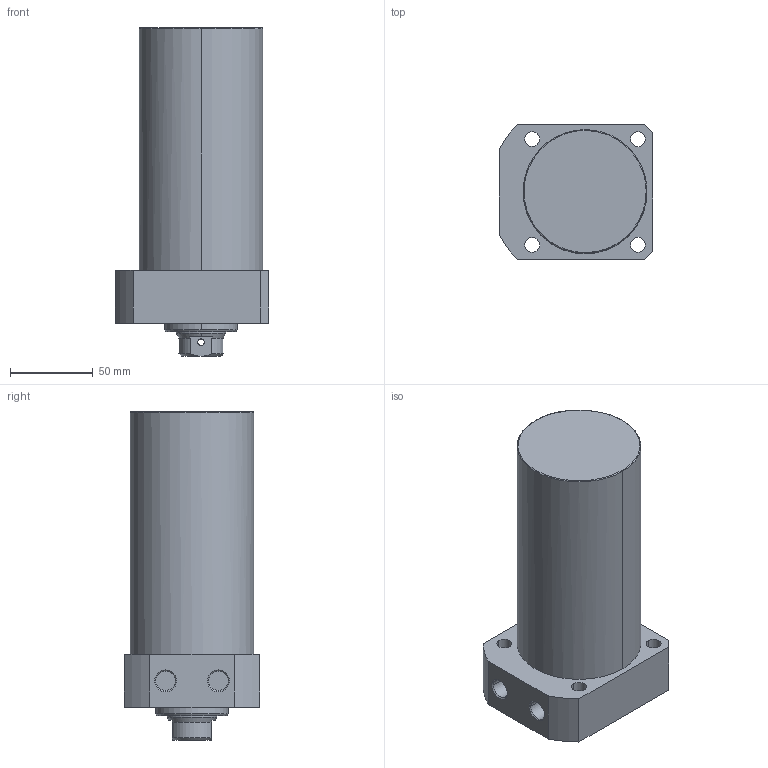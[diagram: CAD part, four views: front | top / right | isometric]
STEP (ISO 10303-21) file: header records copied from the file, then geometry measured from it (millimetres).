
FILE_DESCRIPTION((' '),'2;1');
FILE_NAME( 'TLLR-075CB-110.STEP.stp', '2025-10-24T16:35:09', (' '), ('--- Datakit www.datakit.com---'), ' Datakit CrossCadWare V2024.1 Dec 21 2023', 'Mastercam 2025', ' ');
FILE_SCHEMA(('AUTOMOTIVE_DESIGN { 1 0 10303 214 1 1 1 1 }'));
Length unit declared in the file: millimetre
Products named in the file (1): TLLR-075CB-110
Bounding box: 93 x 82 x 199 mm (x, y, z)
Volume: 884398.9 mm3; surface area: 68376.1 mm2
Topology: 1 solids, 1 shells, 67 faces, 197 edges, 136 vertices
Faces by surface type: cylinder 32, plane 19, cone 14, torus 2
Entity records: 3386 total; most frequent: CARTESIAN_POINT 1467, DIRECTION 426, ORIENTED_EDGE 390, EDGE_CURVE 195, AXIS2_PLACEMENT_3D 179, VERTEX_POINT 136, CIRCLE 111, EDGE_LOOP 85
